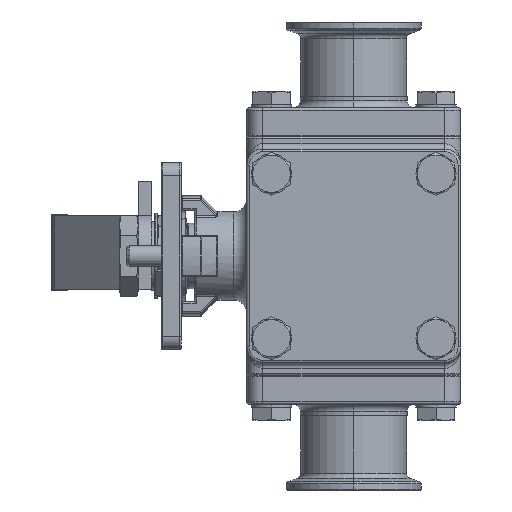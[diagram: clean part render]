
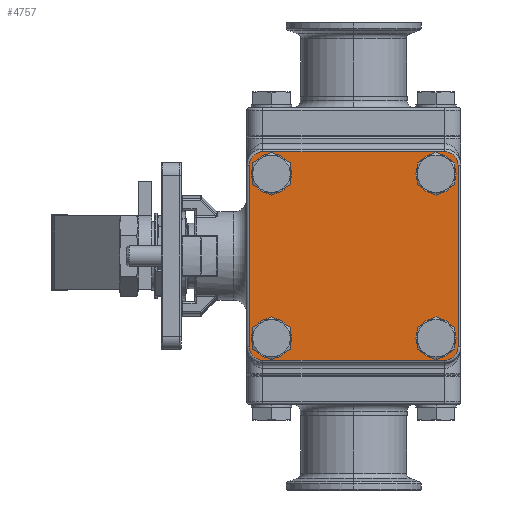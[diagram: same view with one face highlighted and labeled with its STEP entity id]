
A CAD part, left-side view. The second image highlights one B-rep face of the part: STEP entity #4757.
In plain terms, the highlighted planar face has unit normal (-1, 0, 0) as drawn and (0, 0, 1) by its records, which use the part's own axes.
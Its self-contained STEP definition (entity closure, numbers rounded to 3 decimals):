
#132 = CARTESIAN_POINT ( 'NONE',  ( -25.509, -30.759, 7. ) ) ;
#456 = CIRCLE ( 'NONE', #14353, 5.25 ) ;
#594 = EDGE_CURVE ( 'NONE', #4162, #27494, #26032, .T. ) ;
#736 = VERTEX_POINT ( 'NONE', #30946 ) ;
#790 = ORIENTED_EDGE ( 'NONE', *, *, #28495, .T. ) ;
#1118 = CARTESIAN_POINT ( 'NONE',  ( -39., -34., 7. ) ) ;
#1131 = DIRECTION ( 'NONE',  ( -1., 0., 0. ) ) ;
#1510 = VERTEX_POINT ( 'NONE', #2892 ) ;
#1626 = LINE ( 'NONE', #11515, #21602 ) ;
#1927 = DIRECTION ( 'NONE',  ( 0., 0., 1. ) ) ;
#1975 = DIRECTION ( 'NONE',  ( 1., 0., 0. ) ) ;
#1996 = DIRECTION ( 'NONE',  ( 1., 0., 0. ) ) ;
#2054 = CIRCLE ( 'NONE', #4441, 5.25 ) ;
#2711 = AXIS2_PLACEMENT_3D ( 'NONE', #14988, #12803, #1996 ) ;
#2880 = EDGE_CURVE ( 'NONE', #16259, #19701, #4269, .T. ) ;
#2892 = CARTESIAN_POINT ( 'NONE',  ( -34., -39., 7. ) ) ;
#3088 = CARTESIAN_POINT ( 'NONE',  ( 34., -39., 7. ) ) ;
#3316 = EDGE_CURVE ( 'NONE', #28206, #736, #25476, .T. ) ;
#3774 = DIRECTION ( 'NONE',  ( 0., 0., 1. ) ) ;
#4084 = CIRCLE ( 'NONE', #19722, 5.25 ) ;
#4162 = VERTEX_POINT ( 'NONE', #33631 ) ;
#4269 = LINE ( 'NONE', #1118, #22618 ) ;
#4441 = AXIS2_PLACEMENT_3D ( 'NONE', #14170, #3774, #11342 ) ;
#4757 = ADVANCED_FACE ( 'NONE', ( #7457, #26213, #12328, #32280, #13586 ), #13027, .T. ) ;
#4766 = EDGE_LOOP ( 'NONE', ( #23406, #29855, #32806, #27630, #12304, #790, #26614, #19114 ) ) ;
#5655 = ORIENTED_EDGE ( 'NONE', *, *, #17422, .F. ) ;
#6473 = CARTESIAN_POINT ( 'NONE',  ( 34., 34., 7. ) ) ;
#6512 = ORIENTED_EDGE ( 'NONE', *, *, #15820, .F. ) ;
#6551 = EDGE_CURVE ( 'NONE', #1510, #24624, #14336, .T. ) ;
#7457 = FACE_OUTER_BOUND ( 'NONE', #4766, .T. ) ;
#7459 = AXIS2_PLACEMENT_3D ( 'NONE', #8476, #16460, #19293 ) ;
#7570 = CIRCLE ( 'NONE', #27203, 5. ) ;
#8476 = CARTESIAN_POINT ( 'NONE',  ( -30.759, 30.759, 7. ) ) ;
#8486 = AXIS2_PLACEMENT_3D ( 'NONE', #17597, #12781, #1975 ) ;
#8531 = DIRECTION ( 'NONE',  ( 1., 0., 0. ) ) ;
#8623 = ORIENTED_EDGE ( 'NONE', *, *, #14910, .F. ) ;
#8786 = AXIS2_PLACEMENT_3D ( 'NONE', #6473, #20033, #32991 ) ;
#9414 = CARTESIAN_POINT ( 'NONE',  ( 34., -39., 7. ) ) ;
#9708 = DIRECTION ( 'NONE',  ( 0., 0., 1. ) ) ;
#9901 = CIRCLE ( 'NONE', #29443, 5.25 ) ;
#10474 = LINE ( 'NONE', #12369, #21858 ) ;
#11342 = DIRECTION ( 'NONE',  ( 1., 0., 0. ) ) ;
#11515 = CARTESIAN_POINT ( 'NONE',  ( -34., 39., 7. ) ) ;
#11544 = VERTEX_POINT ( 'NONE', #132 ) ;
#11590 = DIRECTION ( 'NONE',  ( 0., 1., 0. ) ) ;
#11643 = CARTESIAN_POINT ( 'NONE',  ( -30.759, 30.759, 7. ) ) ;
#11744 = DIRECTION ( 'NONE',  ( 0., 0., 1. ) ) ;
#11759 = VERTEX_POINT ( 'NONE', #29138 ) ;
#11821 = DIRECTION ( 'NONE',  ( 0., -1., 0. ) ) ;
#11847 = DIRECTION ( 'NONE',  ( 1., 0., 0. ) ) ;
#11922 = CARTESIAN_POINT ( 'NONE',  ( 36.009, 30.759, 7. ) ) ;
#12228 = CARTESIAN_POINT ( 'NONE',  ( -36.009, -30.759, 7. ) ) ;
#12304 = ORIENTED_EDGE ( 'NONE', *, *, #2880, .T. ) ;
#12328 = FACE_BOUND ( 'NONE', #31492, .T. ) ;
#12369 = CARTESIAN_POINT ( 'NONE',  ( 39., 34., 7. ) ) ;
#12781 = DIRECTION ( 'NONE',  ( 0., 0., 1. ) ) ;
#12803 = DIRECTION ( 'NONE',  ( 0., 0., 1. ) ) ;
#12909 = CARTESIAN_POINT ( 'NONE',  ( 34., -34., 7. ) ) ;
#12995 = AXIS2_PLACEMENT_3D ( 'NONE', #13739, #18976, #24194 ) ;
#13027 = PLANE ( 'NONE',  #28548 ) ;
#13119 = DIRECTION ( 'NONE',  ( 1., 0., 0. ) ) ;
#13586 = FACE_BOUND ( 'NONE', #33304, .T. ) ;
#13739 = CARTESIAN_POINT ( 'NONE',  ( 30.759, -30.759, 7. ) ) ;
#14022 = DIRECTION ( 'NONE',  ( 1., 0., 0. ) ) ;
#14170 = CARTESIAN_POINT ( 'NONE',  ( -30.759, -30.759, 7. ) ) ;
#14336 = LINE ( 'NONE', #9414, #31826 ) ;
#14353 = AXIS2_PLACEMENT_3D ( 'NONE', #11643, #11744, #11847 ) ;
#14910 = EDGE_CURVE ( 'NONE', #32878, #33672, #4084, .T. ) ;
#14988 = CARTESIAN_POINT ( 'NONE',  ( 30.759, 30.759, 7. ) ) ;
#15071 = CARTESIAN_POINT ( 'NONE',  ( -30.759, -30.759, 7. ) ) ;
#15558 = ORIENTED_EDGE ( 'NONE', *, *, #3316, .F. ) ;
#15623 = EDGE_CURVE ( 'NONE', #24361, #11544, #2054, .T. ) ;
#15820 = EDGE_CURVE ( 'NONE', #11544, #24361, #24433, .T. ) ;
#15975 = ORIENTED_EDGE ( 'NONE', *, *, #24681, .F. ) ;
#16106 = EDGE_CURVE ( 'NONE', #11759, #16259, #16280, .T. ) ;
#16259 = VERTEX_POINT ( 'NONE', #19457 ) ;
#16272 = VERTEX_POINT ( 'NONE', #24586 ) ;
#16280 = CIRCLE ( 'NONE', #18890, 5. ) ;
#16460 = DIRECTION ( 'NONE',  ( 0., 0., 1. ) ) ;
#16583 = VERTEX_POINT ( 'NONE', #20364 ) ;
#17173 = DIRECTION ( 'NONE',  ( 1., 0., 0. ) ) ;
#17422 = EDGE_CURVE ( 'NONE', #16583, #20476, #456, .T. ) ;
#17597 = CARTESIAN_POINT ( 'NONE',  ( -34., -34., 7. ) ) ;
#17732 = CARTESIAN_POINT ( 'NONE',  ( 25.509, 30.759, 7. ) ) ;
#18696 = ORIENTED_EDGE ( 'NONE', *, *, #15623, .F. ) ;
#18890 = AXIS2_PLACEMENT_3D ( 'NONE', #21632, #21300, #8531 ) ;
#18908 = CIRCLE ( 'NONE', #8486, 5. ) ;
#18976 = DIRECTION ( 'NONE',  ( 0., 0., 1. ) ) ;
#19114 = ORIENTED_EDGE ( 'NONE', *, *, #22217, .T. ) ;
#19293 = DIRECTION ( 'NONE',  ( 1., 0., 0. ) ) ;
#19457 = CARTESIAN_POINT ( 'NONE',  ( -39., 34., 7. ) ) ;
#19701 = VERTEX_POINT ( 'NONE', #25141 ) ;
#19722 = AXIS2_PLACEMENT_3D ( 'NONE', #25763, #30869, #13119 ) ;
#20033 = DIRECTION ( 'NONE',  ( 0., 0., 1. ) ) ;
#20364 = CARTESIAN_POINT ( 'NONE',  ( -25.509, 30.759, 7. ) ) ;
#20476 = VERTEX_POINT ( 'NONE', #20870 ) ;
#20870 = CARTESIAN_POINT ( 'NONE',  ( -36.009, 30.759, 7. ) ) ;
#21014 = CIRCLE ( 'NONE', #7459, 5.25 ) ;
#21192 = ORIENTED_EDGE ( 'NONE', *, *, #26837, .F. ) ;
#21300 = DIRECTION ( 'NONE',  ( 0., 0., 1. ) ) ;
#21307 = CARTESIAN_POINT ( 'NONE',  ( 30.759, -30.759, 7. ) ) ;
#21602 = VECTOR ( 'NONE', #1131, 1000. ) ;
#21632 = CARTESIAN_POINT ( 'NONE',  ( -34., 34., 7. ) ) ;
#21858 = VECTOR ( 'NONE', #11590, 1000. ) ;
#22217 = EDGE_CURVE ( 'NONE', #24624, #16272, #7570, .T. ) ;
#22618 = VECTOR ( 'NONE', #11821, 1000. ) ;
#23406 = ORIENTED_EDGE ( 'NONE', *, *, #26545, .T. ) ;
#24192 = ORIENTED_EDGE ( 'NONE', *, *, #32840, .F. ) ;
#24194 = DIRECTION ( 'NONE',  ( 1., 0., 0. ) ) ;
#24361 = VERTEX_POINT ( 'NONE', #12228 ) ;
#24433 = CIRCLE ( 'NONE', #25423, 5.25 ) ;
#24586 = CARTESIAN_POINT ( 'NONE',  ( 39., -34., 7. ) ) ;
#24624 = VERTEX_POINT ( 'NONE', #3088 ) ;
#24681 = EDGE_CURVE ( 'NONE', #736, #28206, #9901, .T. ) ;
#25043 = CARTESIAN_POINT ( 'NONE',  ( 34., -34., 7. ) ) ;
#25141 = CARTESIAN_POINT ( 'NONE',  ( -39., -34., 7. ) ) ;
#25423 = AXIS2_PLACEMENT_3D ( 'NONE', #15071, #9708, #27920 ) ;
#25476 = CIRCLE ( 'NONE', #12995, 5.25 ) ;
#25694 = CARTESIAN_POINT ( 'NONE',  ( 25.509, -30.759, 7. ) ) ;
#25763 = CARTESIAN_POINT ( 'NONE',  ( 30.759, 30.759, 7. ) ) ;
#26032 = CIRCLE ( 'NONE', #8786, 5. ) ;
#26213 = FACE_BOUND ( 'NONE', #29279, .T. ) ;
#26239 = EDGE_LOOP ( 'NONE', ( #15558, #15975 ) ) ;
#26365 = DIRECTION ( 'NONE',  ( 0., 0., 1. ) ) ;
#26545 = EDGE_CURVE ( 'NONE', #16272, #4162, #10474, .T. ) ;
#26614 = ORIENTED_EDGE ( 'NONE', *, *, #6551, .T. ) ;
#26837 = EDGE_CURVE ( 'NONE', #20476, #16583, #21014, .T. ) ;
#27203 = AXIS2_PLACEMENT_3D ( 'NONE', #25043, #1927, #32888 ) ;
#27494 = VERTEX_POINT ( 'NONE', #33332 ) ;
#27630 = ORIENTED_EDGE ( 'NONE', *, *, #16106, .T. ) ;
#27920 = DIRECTION ( 'NONE',  ( 1., 0., 0. ) ) ;
#28206 = VERTEX_POINT ( 'NONE', #25694 ) ;
#28495 = EDGE_CURVE ( 'NONE', #19701, #1510, #18908, .T. ) ;
#28548 = AXIS2_PLACEMENT_3D ( 'NONE', #12909, #26365, #31001 ) ;
#29138 = CARTESIAN_POINT ( 'NONE',  ( -34., 39., 7. ) ) ;
#29279 = EDGE_LOOP ( 'NONE', ( #18696, #6512 ) ) ;
#29362 = DIRECTION ( 'NONE',  ( 0., 0., 1. ) ) ;
#29443 = AXIS2_PLACEMENT_3D ( 'NONE', #21307, #29362, #14022 ) ;
#29855 = ORIENTED_EDGE ( 'NONE', *, *, #594, .T. ) ;
#30869 = DIRECTION ( 'NONE',  ( 0., 0., 1. ) ) ;
#30946 = CARTESIAN_POINT ( 'NONE',  ( 36.009, -30.759, 7. ) ) ;
#31001 = DIRECTION ( 'NONE',  ( 1., 0., 0. ) ) ;
#31065 = EDGE_CURVE ( 'NONE', #27494, #11759, #1626, .T. ) ;
#31492 = EDGE_LOOP ( 'NONE', ( #8623, #24192 ) ) ;
#31826 = VECTOR ( 'NONE', #17173, 1000. ) ;
#32088 = CIRCLE ( 'NONE', #2711, 5.25 ) ;
#32280 = FACE_BOUND ( 'NONE', #26239, .T. ) ;
#32806 = ORIENTED_EDGE ( 'NONE', *, *, #31065, .T. ) ;
#32840 = EDGE_CURVE ( 'NONE', #33672, #32878, #32088, .T. ) ;
#32878 = VERTEX_POINT ( 'NONE', #17732 ) ;
#32888 = DIRECTION ( 'NONE',  ( 1., 0., 0. ) ) ;
#32991 = DIRECTION ( 'NONE',  ( 1., 0., 0. ) ) ;
#33304 = EDGE_LOOP ( 'NONE', ( #21192, #5655 ) ) ;
#33332 = CARTESIAN_POINT ( 'NONE',  ( 34., 39., 7. ) ) ;
#33631 = CARTESIAN_POINT ( 'NONE',  ( 39., 34., 7. ) ) ;
#33672 = VERTEX_POINT ( 'NONE', #11922 ) ;
